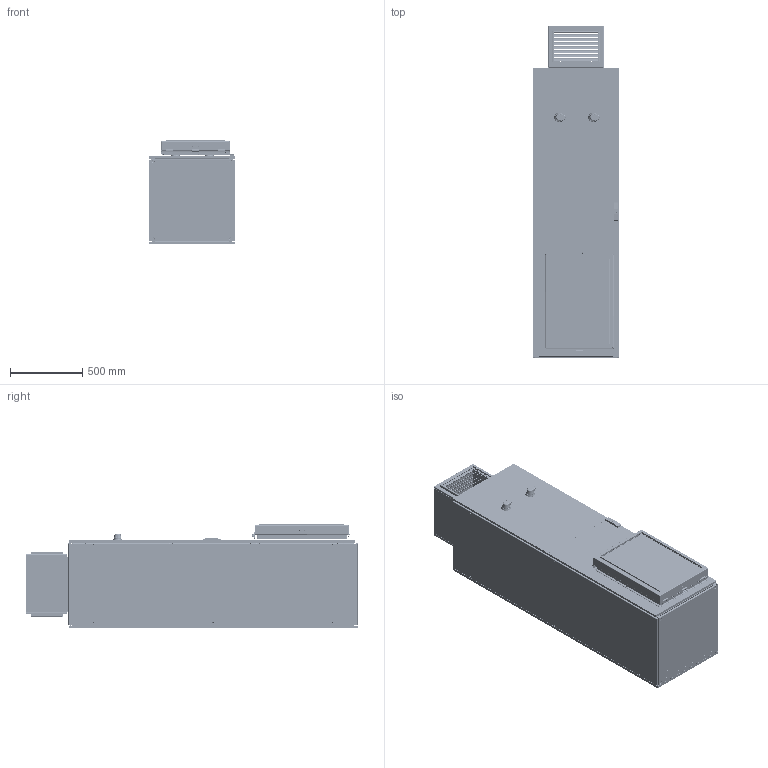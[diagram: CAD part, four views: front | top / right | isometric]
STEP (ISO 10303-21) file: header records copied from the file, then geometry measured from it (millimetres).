
FILE_DESCRIPTION((''),'2;1');
FILE_NAME('10002176858_ASM','2016-05-24T',('20043219'),(''),'PRO/ENGINEER BY PARAMETRIC TECHNOLOGY CORPORATION, 2012480','PRO/ENGINEER BY PARAMETRIC TECHNOLOGY CORPORATION, 2012480','');
FILE_SCHEMA(('AUTOMOTIVE_DESIGN { 1 0 10303 214 1 1 1 1 }'));
Products named in the file (59): 10000151481; 10000151425; 10000151484; 10000151426; 10000228994; 10000228995; 10000228996; 10000228997_ASM; 10000228998_ASM; 10000492230; 10000407147; 10000151428; 10000407150_ASM; 10000151483; 10001370829; 10000151449; 10000407146_ASM; 10000185513; 10000236550; 10000198869_ASM; 10000715295; 10000715296_ASM; 10000193575; 10000193577; 10000872324_ASM; 10000200561; 10000193578_ASM; 222405-Q12; 10000185517_ASM; 10000221271; 10000594978; 10000097516; 10000594979_ASM; 10000594980; 10000594981_ASM; 10000494890_ASM; 10000594967; 10000594968_ASM; 10000594969; 10000594970_ASM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
Assembly tree (112 placements, depth 7):
  10002176858_ASM
    10002119245_ASM
      10000407146_ASM
        10000151481  x2
        10000151425  x4
        10000151484
        10000151426  x4
        10000228998_ASM
          10000228997_ASM
            10000228994
            10000228995
            10000228996  x4
        10000492230
        10000407150_ASM
          10000407147
          10000151428
        10000151483
        10001370829  x4
        10000151449  x8
      10000185517_ASM
        10000198869_ASM
          10000185513
          10000236550  x4
        10000715296_ASM
          10000715295
        10000193578_ASM  x2
          10000872324_ASM
            10000193575
            10000193577  x2
          10000200561
        222405-Q12  x4
      10000343665_ASM
        10000594959_ASM
          10000494890_ASM
            10000221271  x7
            10000594979_ASM
              10000594978
              10000097516  x3
            10000594981_ASM
              10000594980
          10000337587_ASM
            10000594968_ASM
              10000594967
            10000594970_ASM
              10000594969
            10000594972_ASM
              10000594971
              10000574800  x3
            10000221271  x11
            10000594973
            10000582930  x3
            10001988729  x2
          10000337596
          10000337597
      10000802668
    10002160298_ASM
      10001951083_ASM
        40269-060_ASM
    10000151448  x2
    10000147850  x2
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Bounding box: 600 x 2293 x 720.88 mm (x, y, z)
Volume: 42444538.5 mm3; surface area: 19555499.1 mm2
Topology: 93 solids, 144 shells, 17376 faces, 47960 edges, 31113 vertices
Faces by surface type: plane 10189, cylinder 5503, bspline 621, cone 536, torus 463, sphere 64
Entity records: 319265 total; most frequent: CARTESIAN_POINT 50722, DIRECTION 39411, ORIENTED_EDGE 39270, PRESENTATION_STYLE_ASSIGNMENT 19793, STYLED_ITEM 19739, CURVE_STYLE 19677, EDGE_CURVE 19677, VECTOR 13667
